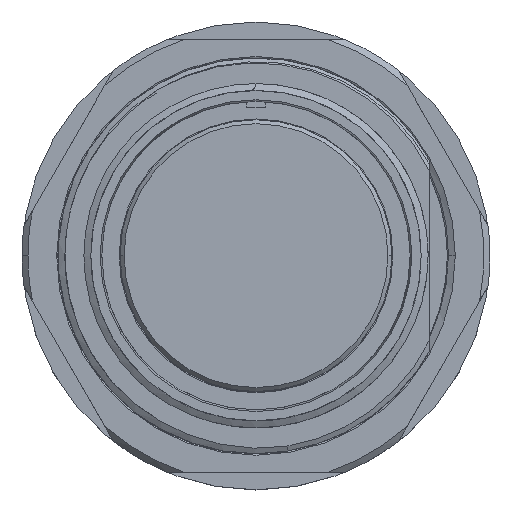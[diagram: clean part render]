
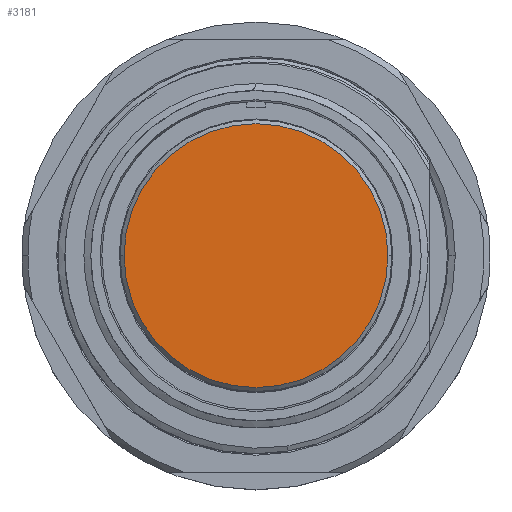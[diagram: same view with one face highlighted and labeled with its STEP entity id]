
A CAD part, top view. The second image highlights one B-rep face of the part: STEP entity #3181.
In plain terms, the highlighted planar face has unit normal (0, 0, 1).
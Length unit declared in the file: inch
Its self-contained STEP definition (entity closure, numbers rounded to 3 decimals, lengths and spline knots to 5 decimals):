
#237 = DIRECTION ( 'NONE',  ( 1., 0., 0. ) ) ;
#1044 = CARTESIAN_POINT ( 'NONE',  ( -0.667, 0., -0.018 ) ) ;
#1424 = AXIS2_PLACEMENT_3D ( 'NONE', #12924, #1916, #3922 ) ;
#1758 = CARTESIAN_POINT ( 'NONE',  ( 0.667, 0., -0.018 ) ) ;
#1916 = DIRECTION ( 'NONE',  ( 0., 0., 1. ) ) ;
#2146 = FACE_OUTER_BOUND ( 'NONE', #9819, .T. ) ;
#2325 = AXIS2_PLACEMENT_3D ( 'NONE', #4171, #10857, #10919 ) ;
#2742 = EDGE_CURVE ( 'NONE', #9799, #8468, #7140, .T. ) ;
#3181 = ADVANCED_FACE ( 'NONE', ( #2146 ), #7402, .T. ) ;
#3922 = DIRECTION ( 'NONE',  ( 1., 0., 0. ) ) ;
#4086 = DIRECTION ( 'NONE',  ( 0., 0., 1. ) ) ;
#4171 = CARTESIAN_POINT ( 'NONE',  ( 0., 0., -0.018 ) ) ;
#5084 = CARTESIAN_POINT ( 'NONE',  ( 0., 0., -0.018 ) ) ;
#5569 = ORIENTED_EDGE ( 'NONE', *, *, #2742, .T. ) ;
#5850 = ORIENTED_EDGE ( 'NONE', *, *, #6997, .T. ) ;
#6997 = EDGE_CURVE ( 'NONE', #8468, #9799, #9750, .T. ) ;
#7140 = CIRCLE ( 'NONE', #1424, 0.667 ) ;
#7402 = PLANE ( 'NONE',  #13077 ) ;
#8468 = VERTEX_POINT ( 'NONE', #1044 ) ;
#9750 = CIRCLE ( 'NONE', #2325, 0.667 ) ;
#9799 = VERTEX_POINT ( 'NONE', #1758 ) ;
#9819 = EDGE_LOOP ( 'NONE', ( #5850, #5569 ) ) ;
#10857 = DIRECTION ( 'NONE',  ( 0., 0., 1. ) ) ;
#10919 = DIRECTION ( 'NONE',  ( 1., 0., 0. ) ) ;
#12924 = CARTESIAN_POINT ( 'NONE',  ( 0., 0., -0.018 ) ) ;
#13077 = AXIS2_PLACEMENT_3D ( 'NONE', #5084, #4086, #237 ) ;
